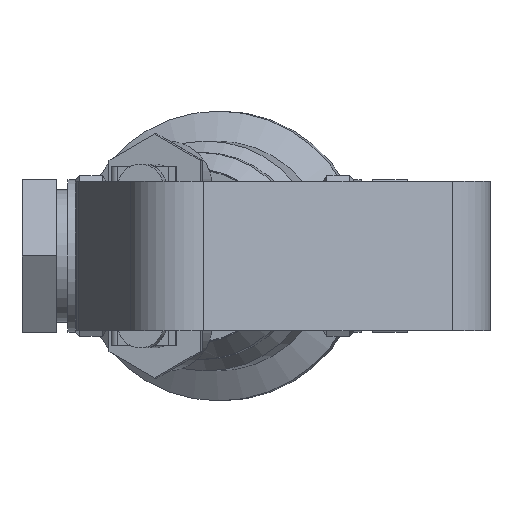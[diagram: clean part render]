
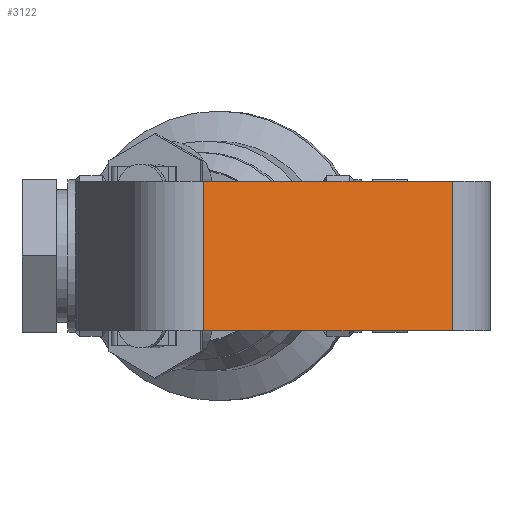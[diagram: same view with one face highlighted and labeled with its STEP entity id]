
A CAD part, front view. The second image highlights one B-rep face of the part: STEP entity #3122.
In plain terms, the highlighted planar face has unit normal (0.342, -0.94, 0).
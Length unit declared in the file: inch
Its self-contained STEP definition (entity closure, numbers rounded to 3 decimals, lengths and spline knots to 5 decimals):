
#110=PLANE('',#3452);
#248=FACE_OUTER_BOUND('',#431,.T.);
#431=EDGE_LOOP('',(#2190,#2191,#2192,#2193));
#621=LINE('',#5144,#868);
#628=LINE('',#5179,#875);
#629=LINE('',#5182,#876);
#630=LINE('',#5183,#877);
#868=VECTOR('',#3916,0.3937);
#875=VECTOR('',#3955,0.3937);
#876=VECTOR('',#3958,0.3937);
#877=VECTOR('',#3959,0.3937);
#1334=VERTEX_POINT('',#5141);
#1335=VERTEX_POINT('',#5143);
#1347=VERTEX_POINT('',#5177);
#1348=VERTEX_POINT('',#5181);
#1657=EDGE_CURVE('',#1334,#1335,#621,.T.);
#1674=EDGE_CURVE('',#1347,#1334,#628,.T.);
#1675=EDGE_CURVE('',#1348,#1347,#629,.T.);
#1676=EDGE_CURVE('',#1348,#1335,#630,.T.);
#2190=ORIENTED_EDGE('',*,*,#1674,.F.);
#2191=ORIENTED_EDGE('',*,*,#1675,.F.);
#2192=ORIENTED_EDGE('',*,*,#1676,.T.);
#2193=ORIENTED_EDGE('',*,*,#1657,.F.);
#3122=ADVANCED_FACE('',(#248),#110,.T.);
#3452=AXIS2_PLACEMENT_3D('',#5180,#3956,#3957);
#3916=DIRECTION('',(-0.94,-0.342,0.));
#3955=DIRECTION('',(0.,0.,-1.));
#3956=DIRECTION('center_axis',(0.342,-0.94,0.));
#3957=DIRECTION('ref_axis',(0.94,0.342,0.));
#3958=DIRECTION('',(0.94,0.342,0.));
#3959=DIRECTION('',(0.,0.,-1.));
#5141=CARTESIAN_POINT('',(2.06739,-4.36272,-0.65));
#5143=CARTESIAN_POINT('',(-0.09522,-5.14985,-0.65));
#5144=CARTESIAN_POINT('',(2.06739,-4.36272,-0.65));
#5177=CARTESIAN_POINT('',(2.06739,-4.36272,0.65));
#5179=CARTESIAN_POINT('',(2.06739,-4.36272,0.));
#5180=CARTESIAN_POINT('Origin',(-0.09522,-5.14985,0.));
#5181=CARTESIAN_POINT('',(-0.09522,-5.14985,0.65));
#5182=CARTESIAN_POINT('',(2.06739,-4.36272,0.65));
#5183=CARTESIAN_POINT('',(-0.09522,-5.14985,0.));
